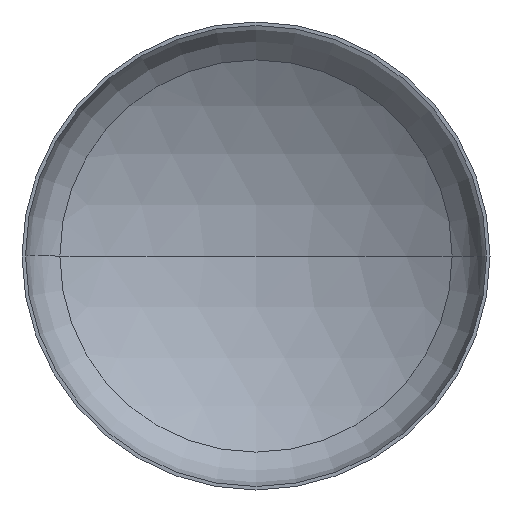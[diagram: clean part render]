
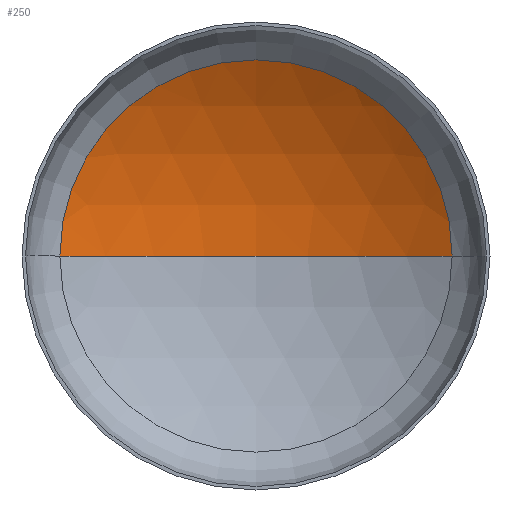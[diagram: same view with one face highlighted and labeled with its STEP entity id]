
A CAD part, front view. The second image highlights one B-rep face of the part: STEP entity #250.
In plain terms, the highlighted spherical face has radius 2880 mm.
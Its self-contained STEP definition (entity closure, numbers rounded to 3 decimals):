
#12 = CARTESIAN_POINT ( 'NONE',  ( 0., -1895.429, 0. ) ) ;
#14 = AXIS2_PLACEMENT_3D ( 'NONE', #163, #315, #164 ) ;
#17 = AXIS2_PLACEMENT_3D ( 'NONE', #293, #247, #402 ) ;
#27 = EDGE_LOOP ( 'NONE', ( #45, #135, #109 ) ) ;
#45 = ORIENTED_EDGE ( 'NONE', *, *, #384, .F. ) ;
#46 = DIRECTION ( 'NONE',  ( 0., 0., -1. ) ) ;
#50 = AXIS2_PLACEMENT_3D ( 'NONE', #12, #46, #342 ) ;
#81 = VERTEX_POINT ( 'NONE', #198 ) ;
#109 = ORIENTED_EDGE ( 'NONE', *, *, #353, .T. ) ;
#112 = VERTEX_POINT ( 'NONE', #360 ) ;
#115 = VERTEX_POINT ( 'NONE', #308 ) ;
#130 = CIRCLE ( 'NONE', #14, 2880. ) ;
#135 = ORIENTED_EDGE ( 'NONE', *, *, #355, .T. ) ;
#150 = CIRCLE ( 'NONE', #17, 1508.748 ) ;
#163 = CARTESIAN_POINT ( 'NONE',  ( 0., -1895.429, 0. ) ) ;
#164 = DIRECTION ( 'NONE',  ( -1., 0., 0. ) ) ;
#193 = CIRCLE ( 'NONE', #238, 2880. ) ;
#198 = CARTESIAN_POINT ( 'NONE',  ( -1508.748, 557.748, 0. ) ) ;
#203 = DIRECTION ( 'NONE',  ( 0., 0., 1. ) ) ;
#238 = AXIS2_PLACEMENT_3D ( 'NONE', #351, #203, #295 ) ;
#247 = DIRECTION ( 'NONE',  ( 0., -1., 0. ) ) ;
#250 = ADVANCED_FACE ( 'NONE', ( #297 ), #364, .F. ) ;
#293 = CARTESIAN_POINT ( 'NONE',  ( 0., 557.748, 0. ) ) ;
#295 = DIRECTION ( 'NONE',  ( 1., 0., 0. ) ) ;
#297 = FACE_OUTER_BOUND ( 'NONE', #27, .T. ) ;
#308 = CARTESIAN_POINT ( 'NONE',  ( 0., 984.571, 0. ) ) ;
#315 = DIRECTION ( 'NONE',  ( 0., 0., -1. ) ) ;
#342 = DIRECTION ( 'NONE',  ( -1., 0., 0. ) ) ;
#351 = CARTESIAN_POINT ( 'NONE',  ( 0., -1895.429, 0. ) ) ;
#353 = EDGE_CURVE ( 'NONE', #112, #81, #150, .T. ) ;
#355 = EDGE_CURVE ( 'NONE', #115, #112, #130, .T. ) ;
#360 = CARTESIAN_POINT ( 'NONE',  ( 1508.748, 557.748, 0. ) ) ;
#364 = SPHERICAL_SURFACE ( 'NONE', #50, 2880. ) ;
#384 = EDGE_CURVE ( 'NONE', #115, #81, #193, .T. ) ;
#402 = DIRECTION ( 'NONE',  ( 1., 0., 0. ) ) ;
